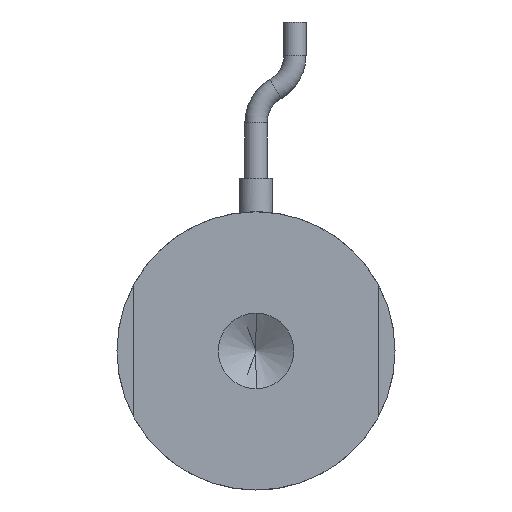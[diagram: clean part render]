
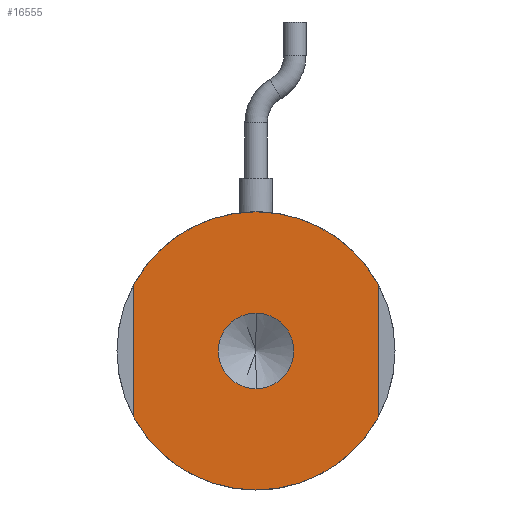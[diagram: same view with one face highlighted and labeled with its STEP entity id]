
A CAD part, front view. The second image highlights one B-rep face of the part: STEP entity #16555.
In plain terms, the highlighted planar face has unit normal (0, -1, 0).
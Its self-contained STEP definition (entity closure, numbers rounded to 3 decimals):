
#522 = VERTEX_POINT ( 'NONE', #36479 ) ;
#1567 = AXIS2_PLACEMENT_3D ( 'NONE', #32367, #11452, #35819 ) ;
#1676 = CIRCLE ( 'NONE', #28341, 12.5 ) ;
#2200 = CARTESIAN_POINT ( 'NONE',  ( 0., 0., 0. ) ) ;
#2604 = AXIS2_PLACEMENT_3D ( 'NONE', #29160, #32678, #11770 ) ;
#3612 = VECTOR ( 'NONE', #9497, 1000. ) ;
#3812 = CARTESIAN_POINT ( 'NONE',  ( 0., 0., -12.5 ) ) ;
#4716 = EDGE_LOOP ( 'NONE', ( #13930, #43870, #30901, #14498, #10690, #12895 ) ) ;
#5044 = AXIS2_PLACEMENT_3D ( 'NONE', #38737, #17875, #42200 ) ;
#5534 = CARTESIAN_POINT ( 'NONE',  ( 0., 0., -3.4 ) ) ;
#5703 = DIRECTION ( 'NONE',  ( 0., 0., 1. ) ) ;
#5987 = EDGE_CURVE ( 'NONE', #8072, #32705, #31761, .T. ) ;
#6555 = EDGE_CURVE ( 'NONE', #32566, #522, #43640, .T. ) ;
#6573 = CARTESIAN_POINT ( 'NONE',  ( -11., 0., -5.937 ) ) ;
#6590 = DIRECTION ( 'NONE',  ( 0., 1., 0. ) ) ;
#7419 = ORIENTED_EDGE ( 'NONE', *, *, #7949, .F. ) ;
#7479 = CARTESIAN_POINT ( 'NONE',  ( 0., 0., 3.4 ) ) ;
#7949 = EDGE_CURVE ( 'NONE', #32705, #8072, #31009, .T. ) ;
#8072 = VERTEX_POINT ( 'NONE', #5534 ) ;
#9497 = DIRECTION ( 'NONE',  ( 0., 0., -1. ) ) ;
#9812 = DIRECTION ( 'NONE',  ( 0., 1., 0. ) ) ;
#10210 = EDGE_CURVE ( 'NONE', #43898, #32566, #36344, .T. ) ;
#10690 = ORIENTED_EDGE ( 'NONE', *, *, #18999, .F. ) ;
#11452 = DIRECTION ( 'NONE',  ( 0., -1., 0. ) ) ;
#11770 = DIRECTION ( 'NONE',  ( 0., 0., 1. ) ) ;
#12344 = CARTESIAN_POINT ( 'NONE',  ( 0., 0., 0. ) ) ;
#12852 = LINE ( 'NONE', #12961, #3612 ) ;
#12895 = ORIENTED_EDGE ( 'NONE', *, *, #42814, .F. ) ;
#12961 = CARTESIAN_POINT ( 'NONE',  ( 11., 0., 0. ) ) ;
#13088 = AXIS2_PLACEMENT_3D ( 'NONE', #12344, #36720, #15846 ) ;
#13930 = ORIENTED_EDGE ( 'NONE', *, *, #6555, .F. ) ;
#14038 = EDGE_LOOP ( 'NONE', ( #44924, #7419 ) ) ;
#14498 = ORIENTED_EDGE ( 'NONE', *, *, #14842, .F. ) ;
#14842 = EDGE_CURVE ( 'NONE', #28108, #34361, #12852, .T. ) ;
#15846 = DIRECTION ( 'NONE',  ( 0., 0., 1. ) ) ;
#16555 = ADVANCED_FACE ( 'NONE', ( #29175, #30296 ), #25653, .F. ) ;
#16606 = CIRCLE ( 'NONE', #21250, 12.5 ) ;
#16855 = EDGE_CURVE ( 'NONE', #34361, #43898, #16606, .T. ) ;
#16980 = VECTOR ( 'NONE', #27261, 1000. ) ;
#17875 = DIRECTION ( 'NONE',  ( 0., -1., 0. ) ) ;
#18999 = EDGE_CURVE ( 'NONE', #36113, #28108, #24192, .T. ) ;
#21250 = AXIS2_PLACEMENT_3D ( 'NONE', #27466, #6590, #30973 ) ;
#23759 = CARTESIAN_POINT ( 'NONE',  ( -11., 0., 0. ) ) ;
#24192 = CIRCLE ( 'NONE', #13088, 12.5 ) ;
#24695 = CARTESIAN_POINT ( 'NONE',  ( 11., 0., 5.937 ) ) ;
#25653 = PLANE ( 'NONE',  #2604 ) ;
#25855 = CARTESIAN_POINT ( 'NONE',  ( 11., 0., -5.937 ) ) ;
#26540 = DIRECTION ( 'NONE',  ( 0., 1., 0. ) ) ;
#27261 = DIRECTION ( 'NONE',  ( 0., 0., 1. ) ) ;
#27466 = CARTESIAN_POINT ( 'NONE',  ( 0., 0., 0. ) ) ;
#27989 = DIRECTION ( 'NONE',  ( 0., 0., 1. ) ) ;
#28108 = VERTEX_POINT ( 'NONE', #24695 ) ;
#28341 = AXIS2_PLACEMENT_3D ( 'NONE', #30709, #9812, #27989 ) ;
#29160 = CARTESIAN_POINT ( 'NONE',  ( 0., 0., 0. ) ) ;
#29175 = FACE_BOUND ( 'NONE', #14038, .T. ) ;
#30296 = FACE_OUTER_BOUND ( 'NONE', #4716, .T. ) ;
#30709 = CARTESIAN_POINT ( 'NONE',  ( 0., 0., 0. ) ) ;
#30901 = ORIENTED_EDGE ( 'NONE', *, *, #16855, .F. ) ;
#30973 = DIRECTION ( 'NONE',  ( 0., 0., 1. ) ) ;
#31009 = CIRCLE ( 'NONE', #1567, 3.4 ) ;
#31761 = CIRCLE ( 'NONE', #5044, 3.4 ) ;
#32367 = CARTESIAN_POINT ( 'NONE',  ( 0., 0., 0. ) ) ;
#32566 = VERTEX_POINT ( 'NONE', #6573 ) ;
#32678 = DIRECTION ( 'NONE',  ( 0., 1., 0. ) ) ;
#32705 = VERTEX_POINT ( 'NONE', #7479 ) ;
#34014 = AXIS2_PLACEMENT_3D ( 'NONE', #2200, #26540, #5703 ) ;
#34361 = VERTEX_POINT ( 'NONE', #25855 ) ;
#34663 = CARTESIAN_POINT ( 'NONE',  ( 0., 0., 12.5 ) ) ;
#35819 = DIRECTION ( 'NONE',  ( 0., 0., -1. ) ) ;
#36113 = VERTEX_POINT ( 'NONE', #34663 ) ;
#36344 = CIRCLE ( 'NONE', #34014, 12.5 ) ;
#36479 = CARTESIAN_POINT ( 'NONE',  ( -11., 0., 5.937 ) ) ;
#36720 = DIRECTION ( 'NONE',  ( 0., 1., 0. ) ) ;
#38737 = CARTESIAN_POINT ( 'NONE',  ( 0., 0., 0. ) ) ;
#42200 = DIRECTION ( 'NONE',  ( 0., 0., -1. ) ) ;
#42814 = EDGE_CURVE ( 'NONE', #522, #36113, #1676, .T. ) ;
#43640 = LINE ( 'NONE', #23759, #16980 ) ;
#43870 = ORIENTED_EDGE ( 'NONE', *, *, #10210, .F. ) ;
#43898 = VERTEX_POINT ( 'NONE', #3812 ) ;
#44924 = ORIENTED_EDGE ( 'NONE', *, *, #5987, .F. ) ;
